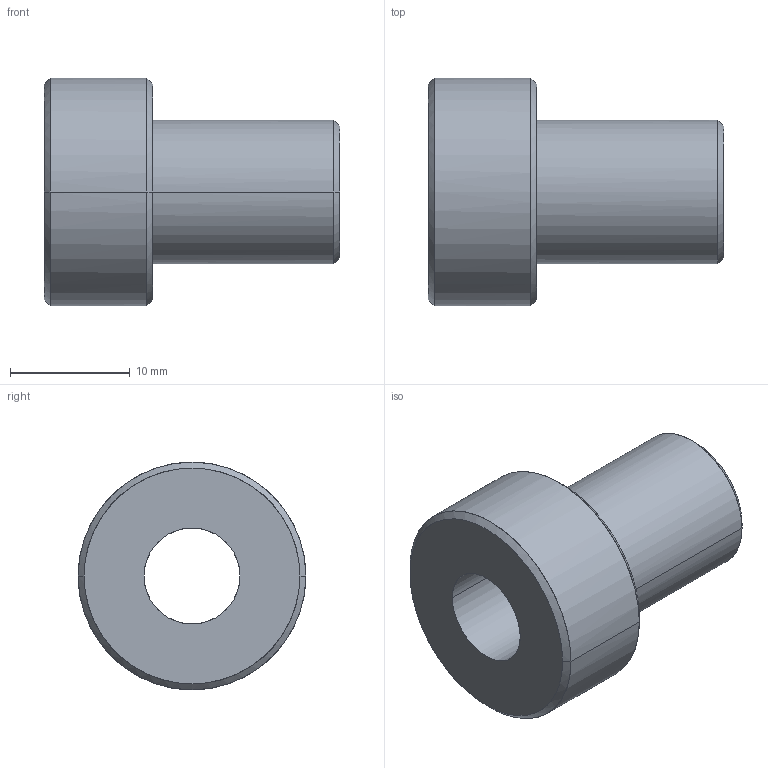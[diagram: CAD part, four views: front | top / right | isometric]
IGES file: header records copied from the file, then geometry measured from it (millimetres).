
Global section: file name: No Iges File Name specified; native system: AutoDesk Inventor R11.0; preprocessor: AutoDesk Inventor Iges Exporter R11.0; author: No Author specified; organization: No Organization specified; date: 20150221.141451; units: millimetre
Bounding box: 24.68 x 19 x 19 mm (x, y, z)
Surface area: 2169.5 mm2 (no closed solid volume)
Topology: 0 solids, 0 shells, 15 faces, 96 edges, 96 vertices
Faces by surface type: bspline 15
